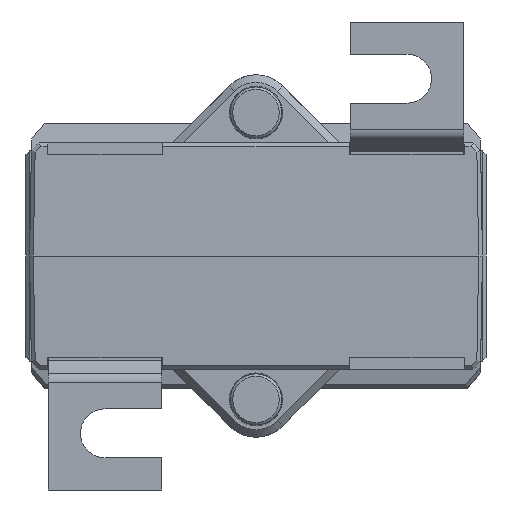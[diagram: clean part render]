
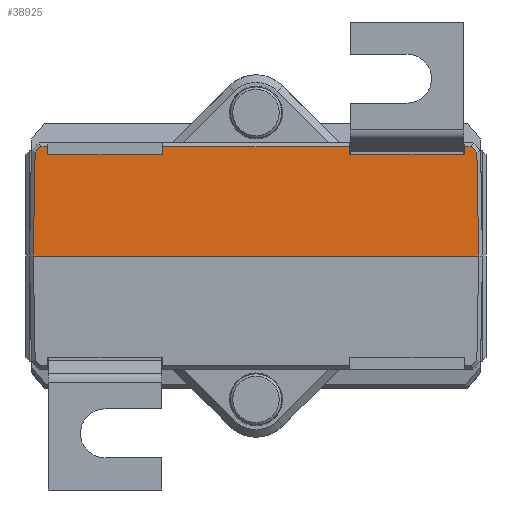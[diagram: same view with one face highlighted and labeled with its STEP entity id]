
A CAD part, front view. The second image highlights one B-rep face of the part: STEP entity #38925.
In plain terms, the highlighted planar face has unit normal (0, -1, 0.018).
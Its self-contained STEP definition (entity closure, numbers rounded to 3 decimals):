
#703=PLANE('',#41238);
#2451=FACE_OUTER_BOUND('',#4654,.T.);
#4654=EDGE_LOOP('',(#26173,#26174,#26175,#26176,#26177,#26178,#26179,#26180,
#26181,#26182,#26183,#26184,#26185,#26186));
#8761=LINE('',#58124,#12646);
#8762=LINE('',#58126,#12647);
#8763=LINE('',#58128,#12648);
#8764=LINE('',#58130,#12649);
#8765=LINE('',#58132,#12650);
#8766=LINE('',#58134,#12651);
#8767=LINE('',#58136,#12652);
#8768=LINE('',#58138,#12653);
#8769=LINE('',#58140,#12654);
#8770=LINE('',#58142,#12655);
#8771=LINE('',#58144,#12656);
#8772=LINE('',#58146,#12657);
#8773=LINE('',#58148,#12658);
#8774=LINE('',#58149,#12659);
#12646=VECTOR('',#44442,1000.);
#12647=VECTOR('',#44443,1000.);
#12648=VECTOR('',#44444,1000.);
#12649=VECTOR('',#44445,1000.);
#12650=VECTOR('',#44446,1000.);
#12651=VECTOR('',#44447,1000.);
#12652=VECTOR('',#44448,1000.);
#12653=VECTOR('',#44449,1000.);
#12654=VECTOR('',#44450,1000.);
#12655=VECTOR('',#44451,1000.);
#12656=VECTOR('',#44452,1000.);
#12657=VECTOR('',#44453,1000.);
#12658=VECTOR('',#44454,1000.);
#12659=VECTOR('',#44455,1000.);
#16809=VERTEX_POINT('',#58122);
#16810=VERTEX_POINT('',#58123);
#16811=VERTEX_POINT('',#58125);
#16812=VERTEX_POINT('',#58127);
#16813=VERTEX_POINT('',#58129);
#16814=VERTEX_POINT('',#58131);
#16815=VERTEX_POINT('',#58133);
#16816=VERTEX_POINT('',#58135);
#16817=VERTEX_POINT('',#58137);
#16818=VERTEX_POINT('',#58139);
#16819=VERTEX_POINT('',#58141);
#16820=VERTEX_POINT('',#58143);
#16821=VERTEX_POINT('',#58145);
#16822=VERTEX_POINT('',#58147);
#20445=EDGE_CURVE('',#16809,#16810,#8761,.T.);
#20446=EDGE_CURVE('',#16810,#16811,#8762,.T.);
#20447=EDGE_CURVE('',#16811,#16812,#8763,.T.);
#20448=EDGE_CURVE('',#16813,#16812,#8764,.T.);
#20449=EDGE_CURVE('',#16813,#16814,#8765,.T.);
#20450=EDGE_CURVE('',#16815,#16814,#8766,.T.);
#20451=EDGE_CURVE('',#16815,#16816,#8767,.T.);
#20452=EDGE_CURVE('',#16817,#16816,#8768,.T.);
#20453=EDGE_CURVE('',#16818,#16817,#8769,.T.);
#20454=EDGE_CURVE('',#16819,#16818,#8770,.T.);
#20455=EDGE_CURVE('',#16819,#16820,#8771,.T.);
#20456=EDGE_CURVE('',#16820,#16821,#8772,.T.);
#20457=EDGE_CURVE('',#16821,#16822,#8773,.T.);
#20458=EDGE_CURVE('',#16809,#16822,#8774,.T.);
#26173=ORIENTED_EDGE('',*,*,#20445,.T.);
#26174=ORIENTED_EDGE('',*,*,#20446,.T.);
#26175=ORIENTED_EDGE('',*,*,#20447,.T.);
#26176=ORIENTED_EDGE('',*,*,#20448,.F.);
#26177=ORIENTED_EDGE('',*,*,#20449,.T.);
#26178=ORIENTED_EDGE('',*,*,#20450,.F.);
#26179=ORIENTED_EDGE('',*,*,#20451,.T.);
#26180=ORIENTED_EDGE('',*,*,#20452,.F.);
#26181=ORIENTED_EDGE('',*,*,#20453,.F.);
#26182=ORIENTED_EDGE('',*,*,#20454,.F.);
#26183=ORIENTED_EDGE('',*,*,#20455,.T.);
#26184=ORIENTED_EDGE('',*,*,#20456,.T.);
#26185=ORIENTED_EDGE('',*,*,#20457,.T.);
#26186=ORIENTED_EDGE('',*,*,#20458,.F.);
#38925=ADVANCED_FACE('',(#2451),#703,.T.);
#41238=AXIS2_PLACEMENT_3D('',#58121,#44440,#44441);
#44440=DIRECTION('center_axis',(0.,-1.,
0.017));
#44441=DIRECTION('ref_axis',(0.,-0.017,-1.));
#44442=DIRECTION('',(-0.017,0.017,1.));
#44443=DIRECTION('',(-0.719,0.012,0.695));
#44444=DIRECTION('',(-1.,0.,0.));
#44445=DIRECTION('',(0.009,0.017,1.));
#44446=DIRECTION('',(-1.,0.,0.));
#44447=DIRECTION('',(0.009,-0.017,-1.));
#44448=DIRECTION('',(-1.,0.,0.));
#44449=DIRECTION('',(0.009,0.017,1.));
#44450=DIRECTION('',(1.,0.,0.));
#44451=DIRECTION('',(0.009,-0.017,-1.));
#44452=DIRECTION('',(-1.,0.,0.));
#44453=DIRECTION('',(-0.719,-0.012,-0.695));
#44454=DIRECTION('',(-0.017,-0.017,-1.));
#44455=DIRECTION('',(-1.,0.,0.));
#58121=CARTESIAN_POINT('Origin',(-30.,-32.,0.));
#58122=CARTESIAN_POINT('',(29.5,-32.,0.));
#58123=CARTESIAN_POINT('',(29.259,-31.76,13.775));
#58124=CARTESIAN_POINT('',(29.482,-31.982,1.038));
#58125=CARTESIAN_POINT('',(28.509,-31.747,14.5));
#58126=CARTESIAN_POINT('',(28.368,-31.745,14.636));
#58127=CARTESIAN_POINT('',(27.618,-31.747,14.5));
#58128=CARTESIAN_POINT('',(-28.72,-31.747,14.5));
#58129=CARTESIAN_POINT('',(27.608,-31.766,13.4));
#58130=CARTESIAN_POINT('',(27.487,-32.009,-0.502));
#58131=CARTESIAN_POINT('',(12.392,-31.766,13.4));
#58132=CARTESIAN_POINT('',(-30.,-31.766,13.4));
#58133=CARTESIAN_POINT('',(12.382,-31.747,14.5));
#58134=CARTESIAN_POINT('',(12.505,-31.994,0.371));
#58135=CARTESIAN_POINT('',(-12.382,-31.747,14.5));
#58136=CARTESIAN_POINT('',(-28.72,-31.747,14.5));
#58137=CARTESIAN_POINT('',(-12.392,-31.766,13.4));
#58138=CARTESIAN_POINT('',(-12.51,-32.003,-0.153));
#58139=CARTESIAN_POINT('',(-27.608,-31.766,13.4));
#58140=CARTESIAN_POINT('',(-30.,-31.766,13.4));
#58141=CARTESIAN_POINT('',(-27.618,-31.747,14.5));
#58142=CARTESIAN_POINT('',(-27.491,-32.,0.022));
#58143=CARTESIAN_POINT('',(-28.509,-31.747,14.5));
#58144=CARTESIAN_POINT('',(-28.72,-31.747,14.5));
#58145=CARTESIAN_POINT('',(-29.259,-31.76,13.776));
#58146=CARTESIAN_POINT('',(-29.404,-31.762,13.636));
#58147=CARTESIAN_POINT('',(-29.5,-32.,0.));
#58148=CARTESIAN_POINT('',(-29.5,-32.,-0.009));
#58149=CARTESIAN_POINT('',(30.,-32.,0.));
